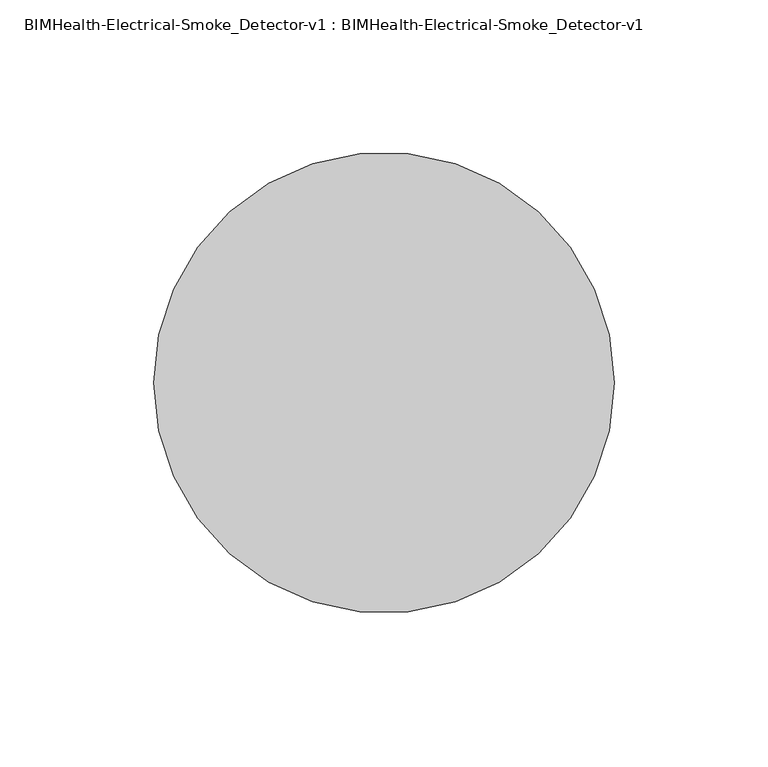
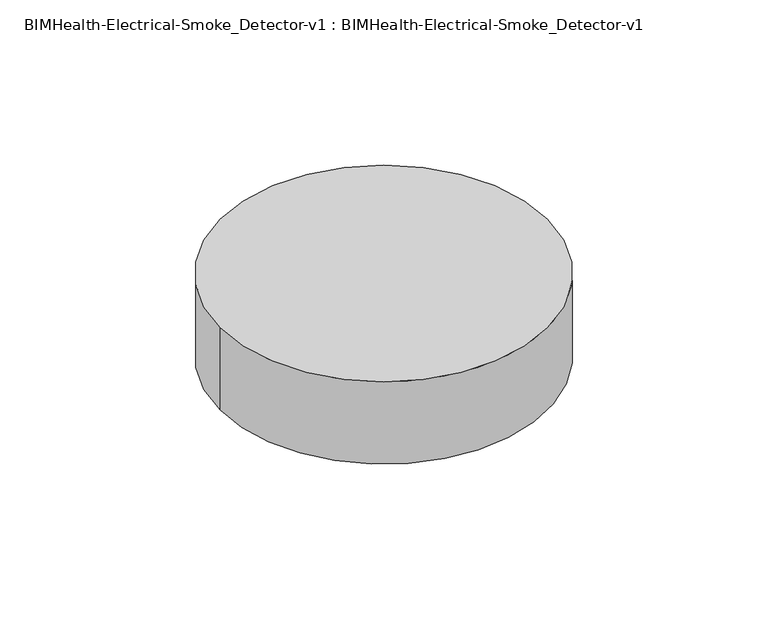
"""IFC4 building model written with IfcOpenShell, lengths in millimetres: proxy geometry, BIMHealth-Electrical-Smoke_Detector-v1 : BIMHealth-Electrical-Smoke_Detector-v1."""

from ifc_helpers import new_model, si_unit, point, frame, origin, origin_2d, place, context, project, spatial, circle_curve, trimmed, segment, composite_curve, outline, extrude, source, transform, mapped, element, save


def bimhealth_electrical_smoke_detector_v1_bimhealth_electrical_fe9fcb6c(model_context):
    return source(origin(), model_context, "Body", "SweptSolid", [
        extrude(outline(composite_curve([segment(trimmed(circle_curve(origin_2d(), 75.0), [point((-75.0, 0.0))], [point((75.0, 0.0))], False, "CARTESIAN"), True, "CONTINUOUS"), segment(trimmed(circle_curve(origin_2d(), 75.0), [point((75.0, 0.0))], [point((-75.0, 0.0))], False, "CARTESIAN"), True, "CONTINUOUS")], self_intersect=False)), frame((0.0, 0.0, 2398.4), z_axis=(0.0, 0.0, 1.0), x_axis=(1.0, 0.0, 0.0)), (0.0, 0.0, 1.0), 40.0),
    ])


if __name__ == "__main__":
    model = new_model("IFC4")
    model_context = context("Model", 3, world=origin())
    ifc_project = project(units=[si_unit("LENGTHUNIT", "METRE", prefix="MILLI")], contexts=[model_context])
    site = spatial("IfcSite", under=ifc_project)
    building = spatial("IfcBuilding", under=site)
    placement = place(None, origin())
    bimhealth_electrical_smoke_detector_v1_bimhealth_electrical_shape = bimhealth_electrical_smoke_detector_v1_bimhealth_electrical_fe9fcb6c(model_context)
    element("IfcBuildingElementProxy", 1, Name="BIMHealth-Electrical-Smoke_Detector-v1 : BIMHealth-Electrical-Smoke_Detector-v1", ObjectType="BIMHealth-Electrical-Smoke_Detector-v1 : BIMHealth-Electrical-Smoke_Detector-v1", at=placement, inside=building, context=model_context, shape_type="MappedRepresentation", body=[
        mapped(bimhealth_electrical_smoke_detector_v1_bimhealth_electrical_shape, transform((0.0, 0.0, 0.0), x_axis=(1.0, 0.0, 0.0), y_axis=(0.0, 1.0, 0.0), z_axis=(0.0, 0.0, 1.0))),
    ])
    save(model, "model.ifc")
